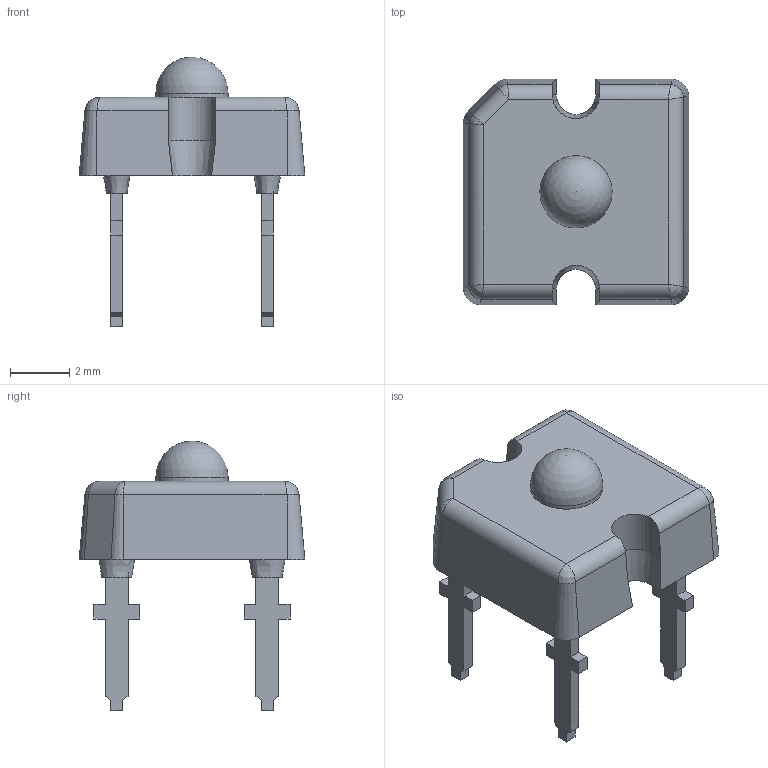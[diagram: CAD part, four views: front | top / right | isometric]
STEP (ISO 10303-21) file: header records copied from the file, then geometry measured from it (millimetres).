
FILE_DESCRIPTION(/* description */ ('Telux'),/* implementation_level */ '2;1');
FILE_NAME(/* name */ 'C:\Users\mmangarudov\OneDrive - Vishay Intertechnology, Inc\Visibles\VLWx963x_6.544-5392.2.stp',/* time_stamp */ '2023-11-10T13:42:25+01:00',/* author */ ('mmangarudov'),/* organization */ (''),/* preprocessor_version */ 'ST-DEVELOPER v18.1',/* originating_system */ 'Autodesk Inventor 2022',/* authorisation */ '');
FILE_SCHEMA (('AUTOMOTIVE_DESIGN { 1 0 10303 214 3 1 1 }'));
Length unit declared in the file: millimetre
Products named in the file (3): 6.544-5427-3D; 6.544-5427-3D-Gehäuse; 6.544-5427-3D-Beinchen
Assembly tree (5 placements, depth 2):
  6.544-5427-3D
    6.544-5427-3D-Gehäuse
    6.544-5427-3D-Beinchen  x4
Bounding box: 7.62 x 7.62 x 9.11 mm (x, y, z)
Volume: 145.8 mm3; surface area: 247.1 mm2
Topology: 5 solids, 5 shells, 120 faces, 304 edges, 193 vertices
Faces by surface type: plane 93, cylinder 10, bspline 9, cone 7, sphere 1
Full cylindrical faces by diameter (mm): 2.44 x1
Entity records: 2555 total; most frequent: CARTESIAN_POINT 977, ORIENTED_EDGE 308, DIRECTION 284, EDGE_CURVE 154, LINE 108, VECTOR 108, VERTEX_POINT 97, AXIS2_PLACEMENT_3D 88
